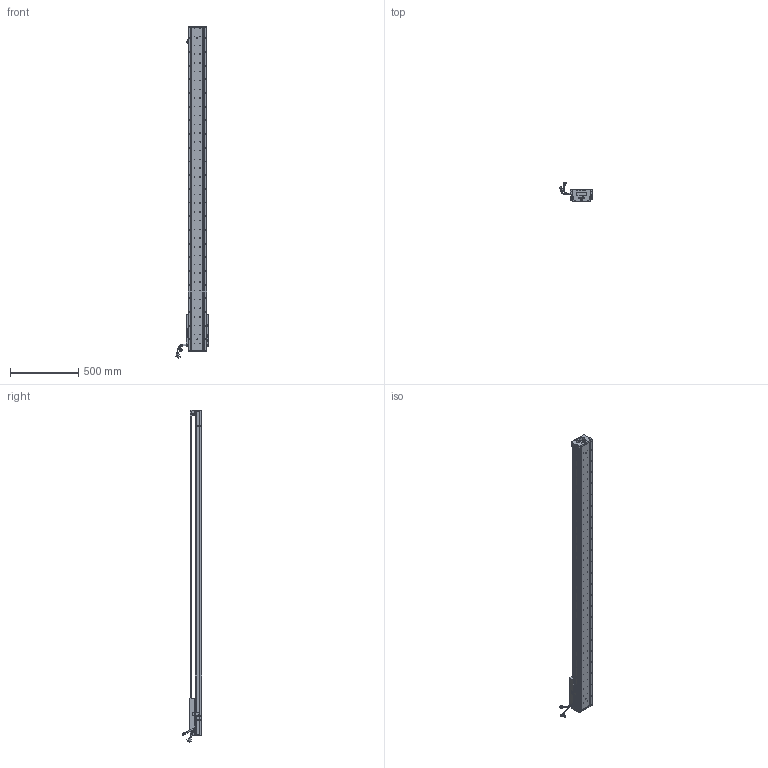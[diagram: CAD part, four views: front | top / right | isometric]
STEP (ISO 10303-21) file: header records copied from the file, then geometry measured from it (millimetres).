
FILE_DESCRIPTION (( 'STEP AP203' ), '1' );
FILE_NAME ('Z3-RY140D-1-L500-B-K.SLDASM_2050.step', '2021-05-17T08:03:45', ( '盈信电脑' ), ( '东莞市道滘镇水果街19号' ), 'SwSTEP 2.0', 'SolidWorks 2016', '' );
FILE_SCHEMA (( 'CONFIG_CONTROL_DESIGN' ));
Length unit declared in the file: millimetre
Products named in the file (36): Z-RY140感应器672光电感应片; LABEL-Part-1; COVER; HARNESS; PBU_SHEET; HOLDER0; Z-RY140詩湍狟揤裔; COVER-Part-1; SCREW-M1.6-2; 140蚥薯蝶輸; SCREW-M1.6-1; SCALE; SHIELDPLATE; HARNESS-Part-2; HARNESS-Part-1; PSLH080_PSLF2; SCREW-M1.7-1; SCALE-Part-1; LABEL; Z3-RY140D-1-L500-B-K.SLDASM_2050; SCREW-M1.6; SCALE-Part-2; SEAL-Part-1; 140雄赽晤鎢ん堤盄; Z3-RY140-L500直线电机模组底座_2050; 榋妏寠巭燃_暯_M2_2; Z3-RY140-L500詩湍100mm遵_2050; Z-RY140詩湍奻揤裔; SEAL; 080黍杅芛假蚾釱21遴; 140-Z-臏賑輸盄裔(21遴); 覜茼ん672; Z3-RY140圉猾敕臏賑輸(21遴); Z-140詩湍傷裔啣; SCREW-M1.6-3; SCREW-M1.7
Assembly tree (41 placements, depth 4):
  Z3-RY140D-1-L500-B-K.SLDASM_2050
    Z3-RY140-L500直线电机模组底座_2050
    Z-RY140感应器672光电感应片
    Z3-RY140圉猾敕臏賑輸(21遴)
    覜茼ん672  x3
    Z3-RY140-L500詩湍100mm遵_2050
    PSLH080_PSLF2
      SCALE
        SCALE-Part-1
        SCALE-Part-2
      HARNESS
        HARNESS-Part-1
        HARNESS-Part-2
      LABEL
        LABEL-Part-1
      COVER
        COVER-Part-1
      SEAL
        SEAL-Part-1
      榋妏寠巭燃_暯_M2_2
      SHIELDPLATE
      SCREW-M1.7
      SCREW-M1.7-1
      PBU_SHEET
      SCREW-M1.6
      SCREW-M1.6-1
      SCREW-M1.6-2
      SCREW-M1.6-3
      HOLDER0
    080黍杅芛假蚾釱21遴
    140-Z-臏賑輸盄裔(21遴)
    Z-140詩湍傷裔啣  x2
    Z-RY140詩湍狟揤裔  x2
    Z-RY140詩湍奻揤裔  x2
    140蚥薯蝶輸  x2
    140雄赽晤鎢ん堤盄
Bounding box: 239.84 x 143.88 x 2425.87 mm (x, y, z)
Volume: 7870504.6 mm3; surface area: 2047802.8 mm2
Topology: 36 solids, 36 shells, 3926 faces, 10634 edges, 6731 vertices
Faces by surface type: cylinder 2088, plane 1326, cone 390, torus 69, bspline 53
Entity records: 123222 total; most frequent: CARTESIAN_POINT 34283, ORIENTED_EDGE 18212, DIRECTION 17034, EDGE_CURVE 9106, AXIS2_PLACEMENT_3D 6330, VERTEX_POINT 5899, VECTOR 4374, LINE 4374
